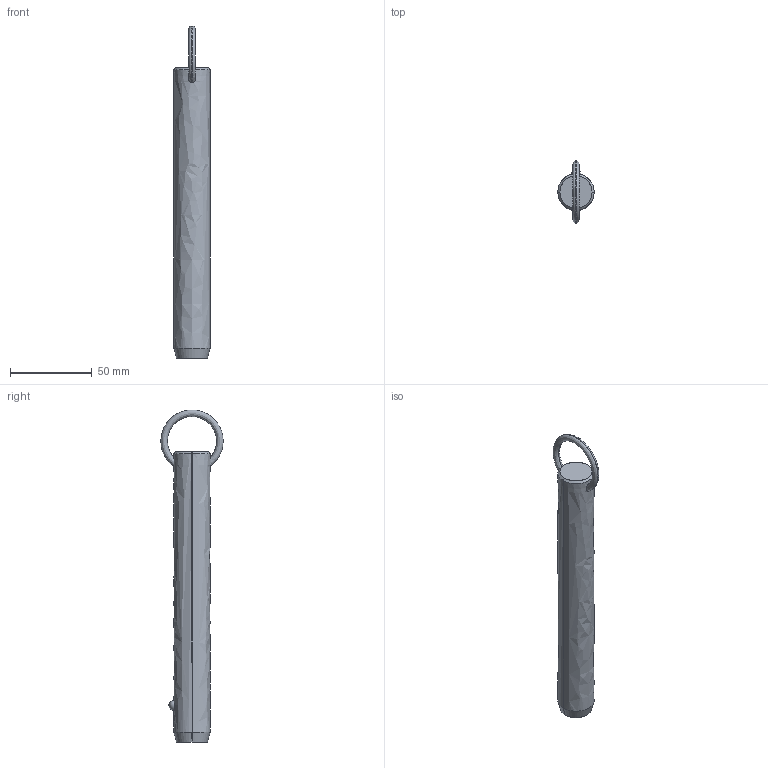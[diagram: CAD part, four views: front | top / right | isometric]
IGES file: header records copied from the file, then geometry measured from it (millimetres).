
Start section: SolidWorks IGES file using analytic representation for surfaces
Global section: file name: C:\Users\liam_\OneDrive\Documents\WORK\Work for WixRoyd\Job Files\J-00019 - Matt Davis CAD Checking\04. CAD Drawings\automotion20190605\P1250.2_v2\P1250.2_v2_20190729_IGES\P1250.087-550.igs; native system: SolidWorks 2017; preprocessor: SolidWorks 2017; author: liam_; date: 190730.001449; units: millimetre
Bounding box: 22.2 x 38.1 x 203.18 mm (x, y, z)
Surface area: 14044.1 mm2 (no closed solid volume)
Topology: 0 solids, 0 shells, 12 faces, 302 edges, 300 vertices
Faces by surface type: revolution 8, bspline 4
